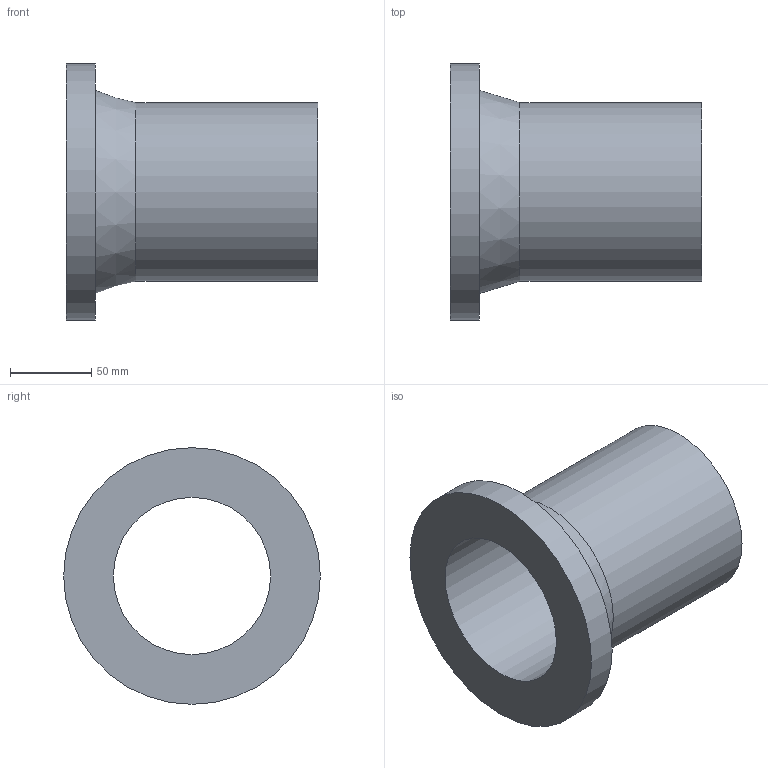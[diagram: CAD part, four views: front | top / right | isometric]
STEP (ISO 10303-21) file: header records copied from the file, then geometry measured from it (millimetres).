
FILE_DESCRIPTION(('Beschreibung'),'1');
FILE_NAME('V:/Ziel/25.80.01.063_SDR_17_PE100_110.STP', '2014-09-15T06:04:16',('Author'), ('Organization'), 'KCM Version 1.1.794.0', 'Kubotek KeyCreator', 'Authorization');
FILE_SCHEMA(('CONFIG_CONTROL_DESIGN'));
Length unit declared in the file: millimetre
Bounding box: 155 x 158 x 158 mm (x, y, z)
Volume: 548042.8 mm3; surface area: 126136.4 mm2
Topology: 1 solids, 1 shells, 7 faces, 18 edges, 21 vertices
Faces by surface type: cylinder 3, plane 3, cone 1
Full cylindrical faces by diameter (mm): 96.8 x1, 110 x1, 158 x1
Entity records: 286 total; most frequent: DIRECTION 41, CARTESIAN_POINT 33, ORIENTED_EDGE 22, AXIS2_PLACEMENT_3D 15, EDGE_CURVE 11, VECTOR 11, LINE 11, EDGE_LOOP 10
